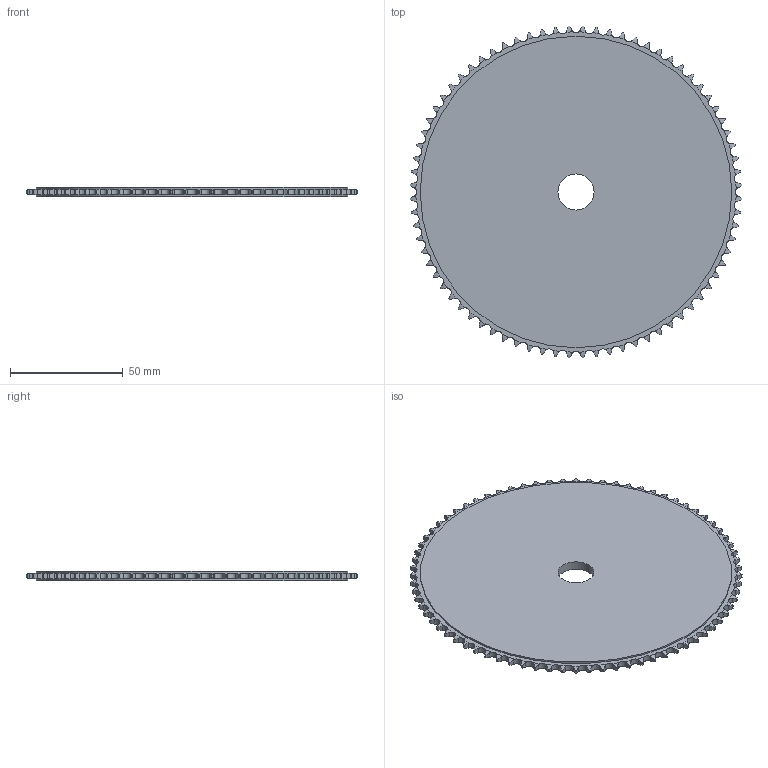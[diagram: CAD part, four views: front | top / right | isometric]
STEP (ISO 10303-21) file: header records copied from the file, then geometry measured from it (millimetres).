
FILE_DESCRIPTION((''),'2;1');
FILE_NAME('500-061-0076_PRT','2021-02-12T',('Brieden'),('Brieden'),'PRO/ENGINEER BY PARAMETRIC TECHNOLOGY CORPORATION, 2010160','PRO/ENGINEER BY PARAMETRIC TECHNOLOGY CORPORATION, 2010160','');
FILE_SCHEMA(('AUTOMOTIVE_DESIGN { 1 0 10303 214 1 1 1 1 }'));
Length unit declared in the file: millimetre
Products named in the file (1): 500-061-0076_PRT
Bounding box: 147.21 x 147.21 x 4 mm (x, y, z)
Volume: 62094.3 mm3; surface area: 34338.5 mm2
Topology: 1 solids, 1 shells, 466 faces, 1386 edges, 924 vertices
Faces by surface type: cylinder 310, torus 152, plane 4
Entity records: 21822 total; most frequent: CARTESIAN_POINT 5827, ORIENTED_EDGE 2772, DIRECTION 2178, PRESENTATION_STYLE_ASSIGNMENT 1387, STYLED_ITEM 1387, CURVE_STYLE 1386, EDGE_CURVE 1386, AXIS2_PLACEMENT_3D 934
